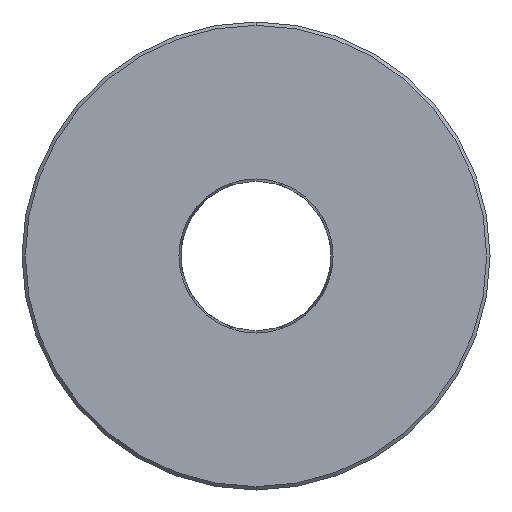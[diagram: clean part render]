
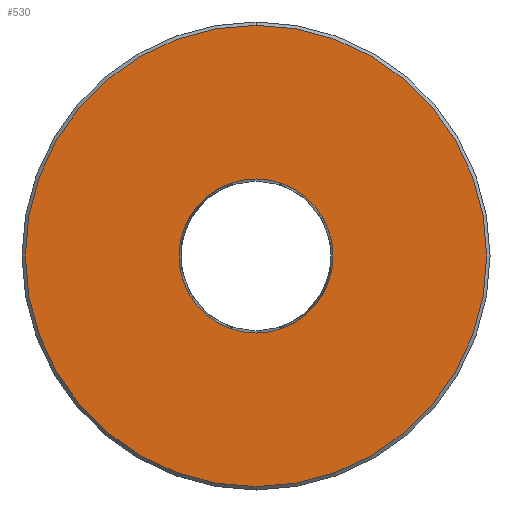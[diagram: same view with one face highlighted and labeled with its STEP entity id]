
A CAD part, front view. The second image highlights one B-rep face of the part: STEP entity #530.
In plain terms, the highlighted planar face has unit normal (0, -1, 0).
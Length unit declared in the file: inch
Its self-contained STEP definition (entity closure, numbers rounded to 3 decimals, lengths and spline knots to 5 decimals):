
#3 = FACE_OUTER_BOUND ( 'NONE', #301, .T. ) ;
#20 = VERTEX_POINT ( 'NONE', #632 ) ;
#29 = CARTESIAN_POINT ( 'NONE',  ( 0., 0., -1.14433 ) ) ;
#34 = DIRECTION ( 'NONE',  ( 0., 0., -1. ) ) ;
#35 = AXIS2_PLACEMENT_3D ( 'NONE', #545, #718, #377 ) ;
#62 = AXIS2_PLACEMENT_3D ( 'NONE', #99, #502, #155 ) ;
#69 = EDGE_LOOP ( 'NONE', ( #335, #189 ) ) ;
#99 = CARTESIAN_POINT ( 'NONE',  ( 0., 0., 0. ) ) ;
#145 = CARTESIAN_POINT ( 'NONE',  ( 0., 0., 1.14433 ) ) ;
#154 = ORIENTED_EDGE ( 'NONE', *, *, #628, .T. ) ;
#155 = DIRECTION ( 'NONE',  ( 0., 0., 1. ) ) ;
#180 = VERTEX_POINT ( 'NONE', #255 ) ;
#181 = EDGE_CURVE ( 'NONE', #499, #198, #744, .T. ) ;
#189 = ORIENTED_EDGE ( 'NONE', *, *, #665, .F. ) ;
#196 = CIRCLE ( 'NONE', #608, 1.14433 ) ;
#198 = VERTEX_POINT ( 'NONE', #145 ) ;
#207 = DIRECTION ( 'NONE',  ( 0., -1., 0. ) ) ;
#238 = EDGE_CURVE ( 'NONE', #20, #180, #588, .T. ) ;
#255 = CARTESIAN_POINT ( 'NONE',  ( 0., 0., 3.425 ) ) ;
#265 = DIRECTION ( 'NONE',  ( 0., -1., 0. ) ) ;
#301 = EDGE_LOOP ( 'NONE', ( #154, #533 ) ) ;
#335 = ORIENTED_EDGE ( 'NONE', *, *, #181, .F. ) ;
#372 = CIRCLE ( 'NONE', #62, 3.425 ) ;
#377 = DIRECTION ( 'NONE',  ( 0., 0., 1. ) ) ;
#378 = DIRECTION ( 'NONE',  ( 0., -1., 0. ) ) ;
#428 = PLANE ( 'NONE',  #35 ) ;
#463 = AXIS2_PLACEMENT_3D ( 'NONE', #611, #265, #674 ) ;
#495 = AXIS2_PLACEMENT_3D ( 'NONE', #719, #378, #34 ) ;
#499 = VERTEX_POINT ( 'NONE', #29 ) ;
#502 = DIRECTION ( 'NONE',  ( 0., -1., 0. ) ) ;
#530 = ADVANCED_FACE ( 'NONE', ( #3, #732 ), #428, .F. ) ;
#533 = ORIENTED_EDGE ( 'NONE', *, *, #238, .T. ) ;
#545 = CARTESIAN_POINT ( 'NONE',  ( 0., 0., 0. ) ) ;
#556 = CARTESIAN_POINT ( 'NONE',  ( 0., 0., 0. ) ) ;
#588 = CIRCLE ( 'NONE', #463, 3.425 ) ;
#608 = AXIS2_PLACEMENT_3D ( 'NONE', #556, #207, #614 ) ;
#611 = CARTESIAN_POINT ( 'NONE',  ( 0., 0., 0. ) ) ;
#614 = DIRECTION ( 'NONE',  ( 0., 0., -1. ) ) ;
#628 = EDGE_CURVE ( 'NONE', #180, #20, #372, .T. ) ;
#632 = CARTESIAN_POINT ( 'NONE',  ( 0., 0., -3.425 ) ) ;
#665 = EDGE_CURVE ( 'NONE', #198, #499, #196, .T. ) ;
#674 = DIRECTION ( 'NONE',  ( 0., 0., 1. ) ) ;
#718 = DIRECTION ( 'NONE',  ( 0., 1., 0. ) ) ;
#719 = CARTESIAN_POINT ( 'NONE',  ( 0., 0., 0. ) ) ;
#732 = FACE_BOUND ( 'NONE', #69, .T. ) ;
#744 = CIRCLE ( 'NONE', #495, 1.14433 ) ;
